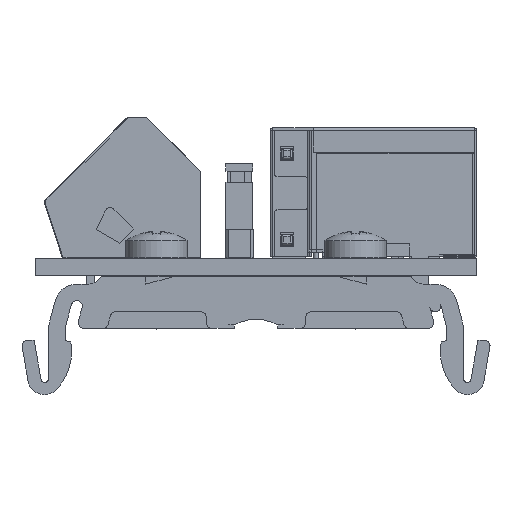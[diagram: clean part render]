
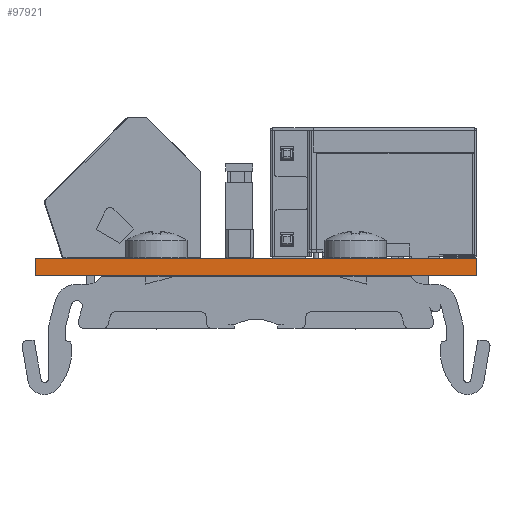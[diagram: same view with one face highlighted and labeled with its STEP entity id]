
A CAD part, left-side view. The second image highlights one B-rep face of the part: STEP entity #97921.
In plain terms, the highlighted planar face has unit normal (-1, 0, 0).
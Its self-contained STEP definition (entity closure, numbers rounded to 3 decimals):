
#97740 = PLANE('',#97741);
#97741 = AXIS2_PLACEMENT_3D('',#97742,#97743,#97744);
#97742 = CARTESIAN_POINT('',(100.,0.,0.));
#97743 = DIRECTION('',(0.,-1.,0.));
#97744 = DIRECTION('',(-1.,0.,0.));
#97765 = VERTEX_POINT('',#97766);
#97766 = CARTESIAN_POINT('',(0.,0.,1.6));
#97780 = PLANE('',#97781);
#97781 = AXIS2_PLACEMENT_3D('',#97782,#97783,#97784);
#97782 = CARTESIAN_POINT('',(50.,20.,1.6));
#97783 = DIRECTION('',(0.,0.,-1.));
#97784 = DIRECTION('',(-1.,0.,0.));
#97792 = EDGE_CURVE('',#97793,#97765,#97795,.T.);
#97793 = VERTEX_POINT('',#97794);
#97794 = CARTESIAN_POINT('',(0.,0.,0.));
#97795 = SURFACE_CURVE('',#97796,(#97800,#97807),.PCURVE_S1.);
#97796 = LINE('',#97797,#97798);
#97797 = CARTESIAN_POINT('',(0.,0.,0.));
#97798 = VECTOR('',#97799,1.);
#97799 = DIRECTION('',(0.,0.,1.));
#97800 = PCURVE('',#97740,#97801);
#97801 = DEFINITIONAL_REPRESENTATION('',(#97802),#97806);
#97802 = LINE('',#97803,#97804);
#97803 = CARTESIAN_POINT('',(100.,0.));
#97804 = VECTOR('',#97805,1.);
#97805 = DIRECTION('',(0.,-1.));
#97806 = ( GEOMETRIC_REPRESENTATION_CONTEXT(2) 
PARAMETRIC_REPRESENTATION_CONTEXT() REPRESENTATION_CONTEXT('2D SPACE',''
  ) );
#97807 = PCURVE('',#97808,#97813);
#97808 = PLANE('',#97809);
#97809 = AXIS2_PLACEMENT_3D('',#97810,#97811,#97812);
#97810 = CARTESIAN_POINT('',(0.,0.,0.));
#97811 = DIRECTION('',(-1.,0.,0.));
#97812 = DIRECTION('',(0.,1.,0.));
#97813 = DEFINITIONAL_REPRESENTATION('',(#97814),#97818);
#97814 = LINE('',#97815,#97816);
#97815 = CARTESIAN_POINT('',(0.,0.));
#97816 = VECTOR('',#97817,1.);
#97817 = DIRECTION('',(0.,-1.));
#97818 = ( GEOMETRIC_REPRESENTATION_CONTEXT(2) 
PARAMETRIC_REPRESENTATION_CONTEXT() REPRESENTATION_CONTEXT('2D SPACE',''
  ) );
#97834 = PLANE('',#97835);
#97835 = AXIS2_PLACEMENT_3D('',#97836,#97837,#97838);
#97836 = CARTESIAN_POINT('',(50.,20.,0.));
#97837 = DIRECTION('',(0.,0.,-1.));
#97838 = DIRECTION('',(-1.,0.,0.));
#97867 = PLANE('',#97868);
#97868 = AXIS2_PLACEMENT_3D('',#97869,#97870,#97871);
#97869 = CARTESIAN_POINT('',(0.,40.,0.));
#97870 = DIRECTION('',(0.,1.,0.));
#97871 = DIRECTION('',(1.,0.,0.));
#97921 = ADVANCED_FACE('',(#97922),#97808,.T.);
#97922 = FACE_BOUND('',#97923,.T.);
#97923 = EDGE_LOOP('',(#97924,#97925,#97948,#97971));
#97924 = ORIENTED_EDGE('',*,*,#97792,.T.);
#97925 = ORIENTED_EDGE('',*,*,#97926,.T.);
#97926 = EDGE_CURVE('',#97765,#97927,#97929,.T.);
#97927 = VERTEX_POINT('',#97928);
#97928 = CARTESIAN_POINT('',(0.,40.,1.6));
#97929 = SURFACE_CURVE('',#97930,(#97934,#97941),.PCURVE_S1.);
#97930 = LINE('',#97931,#97932);
#97931 = CARTESIAN_POINT('',(0.,0.,1.6));
#97932 = VECTOR('',#97933,1.);
#97933 = DIRECTION('',(0.,1.,0.));
#97934 = PCURVE('',#97808,#97935);
#97935 = DEFINITIONAL_REPRESENTATION('',(#97936),#97940);
#97936 = LINE('',#97937,#97938);
#97937 = CARTESIAN_POINT('',(0.,-1.6));
#97938 = VECTOR('',#97939,1.);
#97939 = DIRECTION('',(1.,0.));
#97940 = ( GEOMETRIC_REPRESENTATION_CONTEXT(2) 
PARAMETRIC_REPRESENTATION_CONTEXT() REPRESENTATION_CONTEXT('2D SPACE',''
  ) );
#97941 = PCURVE('',#97780,#97942);
#97942 = DEFINITIONAL_REPRESENTATION('',(#97943),#97947);
#97943 = LINE('',#97944,#97945);
#97944 = CARTESIAN_POINT('',(50.,-20.));
#97945 = VECTOR('',#97946,1.);
#97946 = DIRECTION('',(0.,1.));
#97947 = ( GEOMETRIC_REPRESENTATION_CONTEXT(2) 
PARAMETRIC_REPRESENTATION_CONTEXT() REPRESENTATION_CONTEXT('2D SPACE',''
  ) );
#97948 = ORIENTED_EDGE('',*,*,#97949,.F.);
#97949 = EDGE_CURVE('',#97950,#97927,#97952,.T.);
#97950 = VERTEX_POINT('',#97951);
#97951 = CARTESIAN_POINT('',(0.,40.,0.));
#97952 = SURFACE_CURVE('',#97953,(#97957,#97964),.PCURVE_S1.);
#97953 = LINE('',#97954,#97955);
#97954 = CARTESIAN_POINT('',(0.,40.,0.));
#97955 = VECTOR('',#97956,1.);
#97956 = DIRECTION('',(0.,0.,1.));
#97957 = PCURVE('',#97808,#97958);
#97958 = DEFINITIONAL_REPRESENTATION('',(#97959),#97963);
#97959 = LINE('',#97960,#97961);
#97960 = CARTESIAN_POINT('',(40.,0.));
#97961 = VECTOR('',#97962,1.);
#97962 = DIRECTION('',(0.,-1.));
#97963 = ( GEOMETRIC_REPRESENTATION_CONTEXT(2) 
PARAMETRIC_REPRESENTATION_CONTEXT() REPRESENTATION_CONTEXT('2D SPACE',''
  ) );
#97964 = PCURVE('',#97867,#97965);
#97965 = DEFINITIONAL_REPRESENTATION('',(#97966),#97970);
#97966 = LINE('',#97967,#97968);
#97967 = CARTESIAN_POINT('',(0.,0.));
#97968 = VECTOR('',#97969,1.);
#97969 = DIRECTION('',(0.,-1.));
#97970 = ( GEOMETRIC_REPRESENTATION_CONTEXT(2) 
PARAMETRIC_REPRESENTATION_CONTEXT() REPRESENTATION_CONTEXT('2D SPACE',''
  ) );
#97971 = ORIENTED_EDGE('',*,*,#97972,.F.);
#97972 = EDGE_CURVE('',#97793,#97950,#97973,.T.);
#97973 = SURFACE_CURVE('',#97974,(#97978,#97985),.PCURVE_S1.);
#97974 = LINE('',#97975,#97976);
#97975 = CARTESIAN_POINT('',(0.,0.,0.));
#97976 = VECTOR('',#97977,1.);
#97977 = DIRECTION('',(0.,1.,0.));
#97978 = PCURVE('',#97808,#97979);
#97979 = DEFINITIONAL_REPRESENTATION('',(#97980),#97984);
#97980 = LINE('',#97981,#97982);
#97981 = CARTESIAN_POINT('',(0.,0.));
#97982 = VECTOR('',#97983,1.);
#97983 = DIRECTION('',(1.,0.));
#97984 = ( GEOMETRIC_REPRESENTATION_CONTEXT(2) 
PARAMETRIC_REPRESENTATION_CONTEXT() REPRESENTATION_CONTEXT('2D SPACE',''
  ) );
#97985 = PCURVE('',#97834,#97986);
#97986 = DEFINITIONAL_REPRESENTATION('',(#97987),#97991);
#97987 = LINE('',#97988,#97989);
#97988 = CARTESIAN_POINT('',(50.,-20.));
#97989 = VECTOR('',#97990,1.);
#97990 = DIRECTION('',(0.,1.));
#97991 = ( GEOMETRIC_REPRESENTATION_CONTEXT(2) 
PARAMETRIC_REPRESENTATION_CONTEXT() REPRESENTATION_CONTEXT('2D SPACE',''
  ) );
